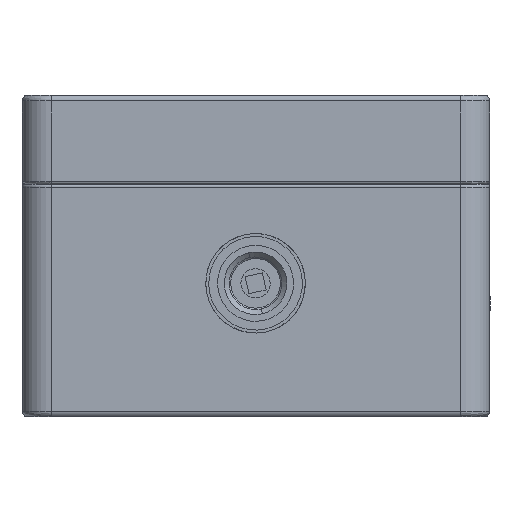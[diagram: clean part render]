
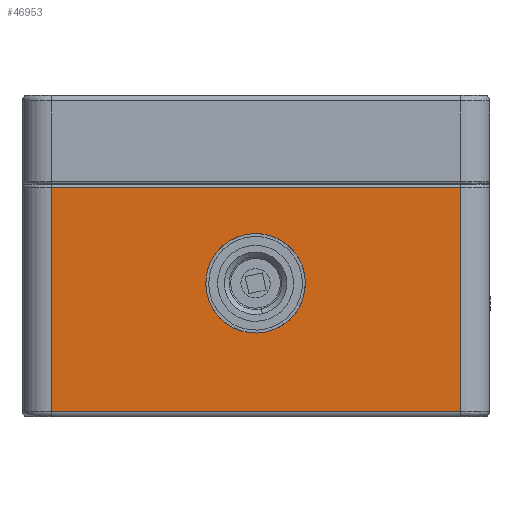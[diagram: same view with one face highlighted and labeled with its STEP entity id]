
A CAD part, front view. The second image highlights one B-rep face of the part: STEP entity #46953.
In plain terms, the highlighted planar face has unit normal (0, -1, 0) as drawn and (0, 1, 0) by its records, which use the part's own axes.
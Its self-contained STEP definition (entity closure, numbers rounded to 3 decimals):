
#14813 = LINE ( 'NONE', #137056, #192088 ) ;
#20038 = DIRECTION ( 'NONE',  ( -1., 0., 0. ) ) ;
#30371 = ORIENTED_EDGE ( 'NONE', *, *, #52726, .F. ) ;
#32197 = VECTOR ( 'NONE', #20038, 1000. ) ;
#46953 = ADVANCED_FACE ( 'NONE', ( #260692 ), #223698, .F. ) ;
#50393 = CARTESIAN_POINT ( 'NONE',  ( 35., 41., 9.307 ) ) ;
#52726 = EDGE_CURVE ( 'NONE', #203534, #166833, #224570, .T. ) ;
#60494 = CARTESIAN_POINT ( 'NONE',  ( -35., 41., 9.307 ) ) ;
#65219 = DIRECTION ( 'NONE',  ( 0., 0., 1. ) ) ;
#89446 = CARTESIAN_POINT ( 'NONE',  ( 35., 41., -2.487 ) ) ;
#104797 = EDGE_CURVE ( 'NONE', #166833, #113283, #130772, .T. ) ;
#110291 = EDGE_CURVE ( 'NONE', #113283, #259383, #14813, .T. ) ;
#111537 = LINE ( 'NONE', #89446, #190866 ) ;
#112817 = DIRECTION ( 'NONE',  ( 1., 0., 0. ) ) ;
#113283 = VERTEX_POINT ( 'NONE', #309443 ) ;
#126286 = ORIENTED_EDGE ( 'NONE', *, *, #104797, .F. ) ;
#130772 = LINE ( 'NONE', #168712, #243945 ) ;
#137056 = CARTESIAN_POINT ( 'NONE',  ( 0., 41., -28.987 ) ) ;
#139473 = ORIENTED_EDGE ( 'NONE', *, *, #289989, .F. ) ;
#143908 = EDGE_LOOP ( 'NONE', ( #139473, #286375, #126286, #30371 ) ) ;
#166833 = VERTEX_POINT ( 'NONE', #60494 ) ;
#168712 = CARTESIAN_POINT ( 'NONE',  ( -35., 41., -2.487 ) ) ;
#177262 = CARTESIAN_POINT ( 'NONE',  ( 0., 41., -2.487 ) ) ;
#190866 = VECTOR ( 'NONE', #65219, 1000. ) ;
#192088 = VECTOR ( 'NONE', #112817, 1000. ) ;
#201523 = DIRECTION ( 'NONE',  ( 1., 0., 0. ) ) ;
#203534 = VERTEX_POINT ( 'NONE', #50393 ) ;
#223698 = PLANE ( 'NONE',  #268937 ) ;
#224570 = LINE ( 'NONE', #308985, #32197 ) ;
#243945 = VECTOR ( 'NONE', #264579, 1000. ) ;
#247917 = DIRECTION ( 'NONE',  ( 0., -1., 0. ) ) ;
#259383 = VERTEX_POINT ( 'NONE', #311143 ) ;
#260692 = FACE_OUTER_BOUND ( 'NONE', #143908, .T. ) ;
#264579 = DIRECTION ( 'NONE',  ( 0., 0., -1. ) ) ;
#268937 = AXIS2_PLACEMENT_3D ( 'NONE', #177262, #247917, #201523 ) ;
#286375 = ORIENTED_EDGE ( 'NONE', *, *, #110291, .F. ) ;
#289989 = EDGE_CURVE ( 'NONE', #259383, #203534, #111537, .T. ) ;
#308985 = CARTESIAN_POINT ( 'NONE',  ( 0., 41., 9.307 ) ) ;
#309443 = CARTESIAN_POINT ( 'NONE',  ( -35., 41., -28.987 ) ) ;
#311143 = CARTESIAN_POINT ( 'NONE',  ( 35., 41., -28.987 ) ) ;
